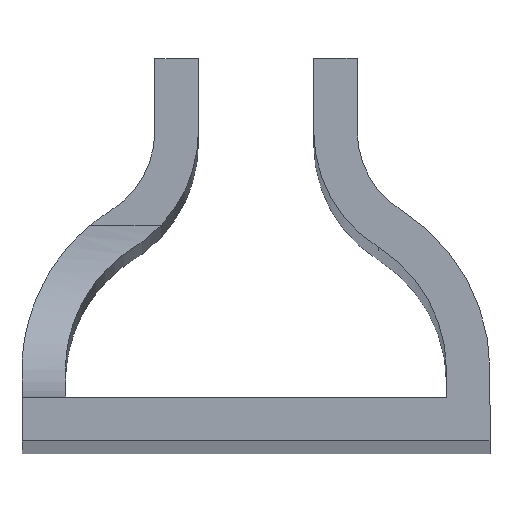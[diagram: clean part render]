
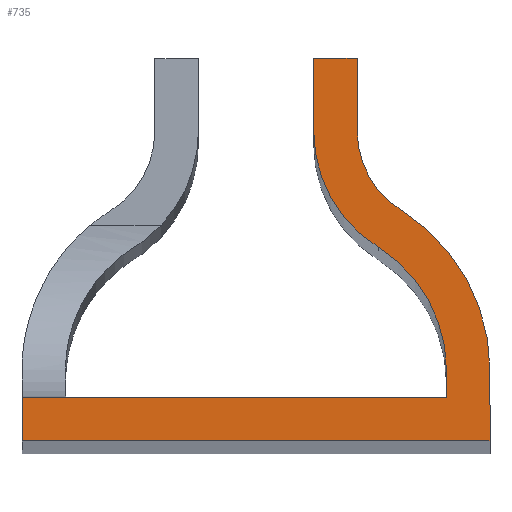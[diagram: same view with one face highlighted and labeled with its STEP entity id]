
A CAD part, top view. The second image highlights one B-rep face of the part: STEP entity #735.
In plain terms, the highlighted planar face has unit normal (0, 0, 1).
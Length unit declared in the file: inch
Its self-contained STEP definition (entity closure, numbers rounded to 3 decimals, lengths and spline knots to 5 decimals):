
#9 = EDGE_CURVE ( 'NONE', #591, #555, #734, .T. ) ;
#18 = ORIENTED_EDGE ( 'NONE', *, *, #132, .T. ) ;
#20 = CARTESIAN_POINT ( 'NONE',  ( 0.10974, 0.28937, 4. ) ) ;
#28 = DIRECTION ( 'NONE',  ( 0., -1., 0. ) ) ;
#34 = DIRECTION ( 'NONE',  ( 1., 0., 0. ) ) ;
#44 = EDGE_CURVE ( 'NONE', #535, #214, #633, .T. ) ;
#52 = CARTESIAN_POINT ( 'NONE',  ( 0.20669, 0., 4. ) ) ;
#62 = CARTESIAN_POINT ( 'NONE',  ( 0.25394, -0.04724, 4. ) ) ;
#63 = DIRECTION ( 'NONE',  ( -1., 0., 0. ) ) ;
#65 = VERTEX_POINT ( 'NONE', #859 ) ;
#69 = VERTEX_POINT ( 'NONE', #562 ) ;
#84 = VECTOR ( 'NONE', #436, 39.37008 ) ;
#100 = DIRECTION ( 'NONE',  ( 0., 0., -1. ) ) ;
#110 = LINE ( 'NONE', #326, #253 ) ;
#111 = CIRCLE ( 'NONE', #487, 0.1015 ) ;
#131 = CARTESIAN_POINT ( 'NONE',  ( 0.10974, 0.36811, 4. ) ) ;
#132 = EDGE_CURVE ( 'NONE', #65, #748, #592, .T. ) ;
#145 = CARTESIAN_POINT ( 'NONE',  ( 0.13254, 0.16316, 4. ) ) ;
#148 = CARTESIAN_POINT ( 'NONE',  ( -0.25394, -0.04724, 4. ) ) ;
#149 = CARTESIAN_POINT ( 'NONE',  ( -0.04921, 0.02953, 4. ) ) ;
#163 = AXIS2_PLACEMENT_3D ( 'NONE', #201, #281, #638 ) ;
#165 = DIRECTION ( 'NONE',  ( -1., 0., 0. ) ) ;
#177 = EDGE_CURVE ( 'NONE', #214, #65, #944, .T. ) ;
#201 = CARTESIAN_POINT ( 'NONE',  ( 0.04921, 0.02953, 4. ) ) ;
#214 = VERTEX_POINT ( 'NONE', #461 ) ;
#220 = DIRECTION ( 'NONE',  ( -1., 0., 0. ) ) ;
#245 = ORIENTED_EDGE ( 'NONE', *, *, #44, .T. ) ;
#253 = VECTOR ( 'NONE', #34, 39.37008 ) ;
#267 = FACE_OUTER_BOUND ( 'NONE', #293, .T. ) ;
#281 = DIRECTION ( 'NONE',  ( 0., 0., -1. ) ) ;
#286 = LINE ( 'NONE', #62, #687 ) ;
#293 = EDGE_LOOP ( 'NONE', ( #916, #810, #843, #503, #807, #647, #483, #245, #617, #18, #332, #708 ) ) ;
#320 = CARTESIAN_POINT ( 'NONE',  ( 0.0625, 0.28937, 4. ) ) ;
#321 = LINE ( 'NONE', #148, #955 ) ;
#326 = CARTESIAN_POINT ( 'NONE',  ( -0.25394, -0.04724, 4. ) ) ;
#332 = ORIENTED_EDGE ( 'NONE', *, *, #465, .T. ) ;
#346 = VERTEX_POINT ( 'NONE', #890 ) ;
#354 = CARTESIAN_POINT ( 'NONE',  ( 0.10974, 0.28937, 4. ) ) ;
#362 = CARTESIAN_POINT ( 'NONE',  ( 0.0625, 0.36811, 4. ) ) ;
#385 = DIRECTION ( 'NONE',  ( 0., 1., 0. ) ) ;
#410 = LINE ( 'NONE', #354, #536 ) ;
#414 = EDGE_CURVE ( 'NONE', #823, #346, #110, .T. ) ;
#422 = DIRECTION ( 'NONE',  ( 0., -1., 0. ) ) ;
#436 = DIRECTION ( 'NONE',  ( -1., 0., 0. ) ) ;
#461 = CARTESIAN_POINT ( 'NONE',  ( 0.0625, 0.36811, 4. ) ) ;
#465 = EDGE_CURVE ( 'NONE', #748, #69, #521, .T. ) ;
#483 = ORIENTED_EDGE ( 'NONE', *, *, #775, .T. ) ;
#487 = AXIS2_PLACEMENT_3D ( 'NONE', #729, #100, #587 ) ;
#497 = CARTESIAN_POINT ( 'NONE',  ( 0.25394, 0.02953, 4. ) ) ;
#503 = ORIENTED_EDGE ( 'NONE', *, *, #654, .T. ) ;
#510 = DIRECTION ( 'NONE',  ( 0., 0., 1. ) ) ;
#511 = VECTOR ( 'NONE', #28, 39.37008 ) ;
#521 = CIRCLE ( 'NONE', #163, 0.15748 ) ;
#530 = EDGE_CURVE ( 'NONE', #69, #724, #826, .T. ) ;
#535 = VERTEX_POINT ( 'NONE', #131 ) ;
#536 = VECTOR ( 'NONE', #709, 39.37008 ) ;
#555 = VERTEX_POINT ( 'NONE', #635 ) ;
#558 = EDGE_CURVE ( 'NONE', #908, #823, #321, .T. ) ;
#562 = CARTESIAN_POINT ( 'NONE',  ( 0.20669, 0.02953, 4. ) ) ;
#574 = CARTESIAN_POINT ( 'NONE',  ( 0.04921, 0.02953, 4. ) ) ;
#587 = DIRECTION ( 'NONE',  ( -1., 0., 0. ) ) ;
#591 = VERTEX_POINT ( 'NONE', #497 ) ;
#592 = CIRCLE ( 'NONE', #904, 0.14874 ) ;
#594 = CARTESIAN_POINT ( 'NONE',  ( -0.25394, 0., 4. ) ) ;
#606 = CARTESIAN_POINT ( 'NONE',  ( -0.20669, 0., 4. ) ) ;
#617 = ORIENTED_EDGE ( 'NONE', *, *, #177, .T. ) ;
#633 = LINE ( 'NONE', #362, #667 ) ;
#634 = DIRECTION ( 'NONE',  ( 1., 0., 0. ) ) ;
#635 = CARTESIAN_POINT ( 'NONE',  ( 0.15754, 0.20325, 4. ) ) ;
#638 = DIRECTION ( 'NONE',  ( 1., 0., 0. ) ) ;
#641 = CARTESIAN_POINT ( 'NONE',  ( -0.25394, -0.04724, 4. ) ) ;
#645 = VERTEX_POINT ( 'NONE', #20 ) ;
#647 = ORIENTED_EDGE ( 'NONE', *, *, #706, .T. ) ;
#654 = EDGE_CURVE ( 'NONE', #346, #591, #286, .T. ) ;
#667 = VECTOR ( 'NONE', #220, 39.37008 ) ;
#687 = VECTOR ( 'NONE', #385, 39.37008 ) ;
#698 = EDGE_CURVE ( 'NONE', #724, #908, #713, .T. ) ;
#706 = EDGE_CURVE ( 'NONE', #555, #645, #111, .T. ) ;
#708 = ORIENTED_EDGE ( 'NONE', *, *, #530, .T. ) ;
#709 = DIRECTION ( 'NONE',  ( 0., 1., 0. ) ) ;
#713 = LINE ( 'NONE', #606, #84 ) ;
#714 = DIRECTION ( 'NONE',  ( 0., 0., -1. ) ) ;
#724 = VERTEX_POINT ( 'NONE', #941 ) ;
#729 = CARTESIAN_POINT ( 'NONE',  ( 0.21124, 0.28937, 4. ) ) ;
#734 = CIRCLE ( 'NONE', #744, 0.20472 ) ;
#735 = ADVANCED_FACE ( 'NONE', ( #267 ), #791, .F. ) ;
#744 = AXIS2_PLACEMENT_3D ( 'NONE', #574, #867, #634 ) ;
#748 = VERTEX_POINT ( 'NONE', #145 ) ;
#775 = EDGE_CURVE ( 'NONE', #645, #535, #410, .T. ) ;
#791 = PLANE ( 'NONE',  #895 ) ;
#807 = ORIENTED_EDGE ( 'NONE', *, *, #9, .T. ) ;
#810 = ORIENTED_EDGE ( 'NONE', *, *, #558, .T. ) ;
#815 = CARTESIAN_POINT ( 'NONE',  ( 0.21124, 0.28937, 4. ) ) ;
#823 = VERTEX_POINT ( 'NONE', #641 ) ;
#826 = LINE ( 'NONE', #52, #847 ) ;
#843 = ORIENTED_EDGE ( 'NONE', *, *, #414, .T. ) ;
#847 = VECTOR ( 'NONE', #872, 39.37008 ) ;
#859 = CARTESIAN_POINT ( 'NONE',  ( 0.0625, 0.28937, 4. ) ) ;
#867 = DIRECTION ( 'NONE',  ( 0., 0., 1. ) ) ;
#872 = DIRECTION ( 'NONE',  ( 0., -1., 0. ) ) ;
#890 = CARTESIAN_POINT ( 'NONE',  ( 0.25394, -0.04724, 4. ) ) ;
#895 = AXIS2_PLACEMENT_3D ( 'NONE', #149, #714, #63 ) ;
#904 = AXIS2_PLACEMENT_3D ( 'NONE', #815, #510, #165 ) ;
#908 = VERTEX_POINT ( 'NONE', #594 ) ;
#916 = ORIENTED_EDGE ( 'NONE', *, *, #698, .T. ) ;
#941 = CARTESIAN_POINT ( 'NONE',  ( 0.20669, 0., 4. ) ) ;
#944 = LINE ( 'NONE', #320, #511 ) ;
#955 = VECTOR ( 'NONE', #422, 39.37008 ) ;
